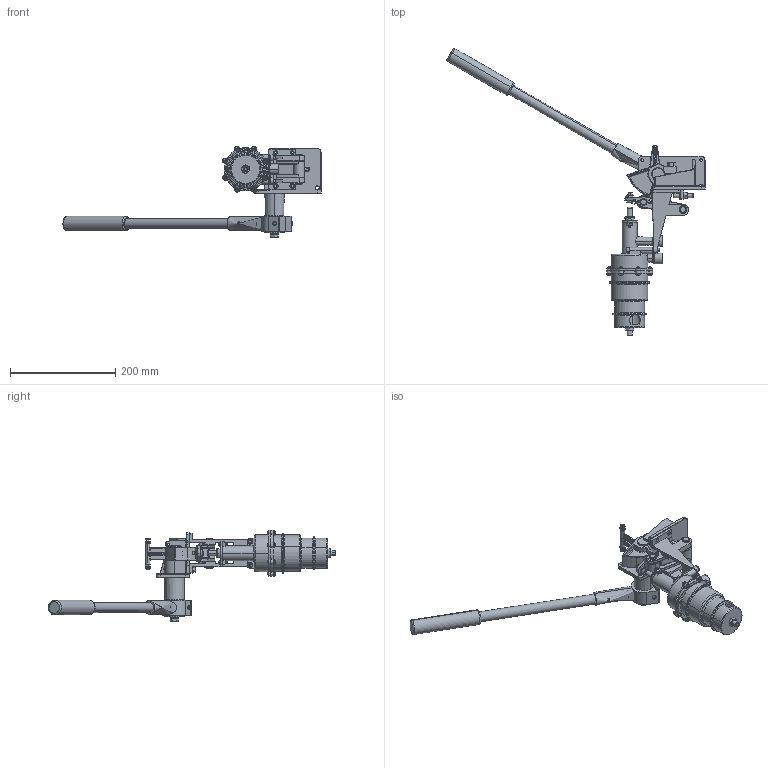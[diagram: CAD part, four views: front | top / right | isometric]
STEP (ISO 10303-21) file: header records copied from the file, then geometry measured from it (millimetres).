
FILE_DESCRIPTION (( 'STEP AP214' ), '1' );
FILE_NAME ('2588.STEP', '2024-08-28T18:11:30', ( '' ), ( '' ), 'SwSTEP 2.0', 'SolidWorks 2023', '' );
FILE_SCHEMA (( 'AUTOMOTIVE_DESIGN' ));
Products named in the file (1): 2588
Bounding box: 490.84 x 546.17 x 173.75 mm (x, y, z)
Surface area: 252663.7 mm2 (no closed solid volume)
Topology: 0 solids, 78 shells, 1240 faces, 4074 edges, 2784 vertices
Faces by surface type: cylinder 406, plane 393, torus 203, cone 143, bspline 70, sphere 25
Entity records: 64587 total; most frequent: CARTESIAN_POINT 29760, DIRECTION 7715, ORIENTED_EDGE 6466, EDGE_CURVE 4067, AXIS2_PLACEMENT_3D 3101, VERTEX_POINT 2784, CIRCLE 1930, VECTOR 1513
